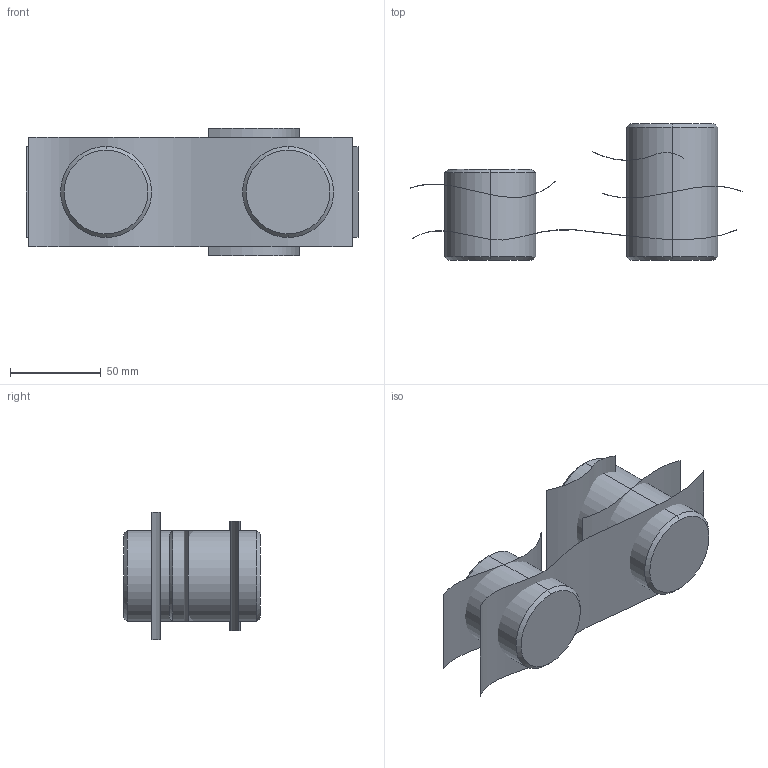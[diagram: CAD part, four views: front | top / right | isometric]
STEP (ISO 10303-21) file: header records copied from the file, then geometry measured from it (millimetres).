
FILE_DESCRIPTION (( 'STEP AP203' ), '1' );
FILE_NAME ('25.1.STEP', '2025-11-02T21:29:11', ( '' ), ( '' ), 'SwSTEP 2.0', 'SolidWorks 2025', '' );
FILE_SCHEMA (( 'CONFIG_CONTROL_DESIGN' ));
Length unit declared in the file: millimetre
Products named in the file (1): 25.1
Bounding box: 182.42 x 75 x 70 mm (x, y, z)
Surface area: 49288.7 mm2 (no closed solid volume)
Topology: 0 solids, 6 shells, 20 faces, 44 edges, 32 vertices
Faces by surface type: cone 8, cylinder 4, plane 4, bspline 4
Entity records: 658 total; most frequent: CARTESIAN_POINT 161, DIRECTION 86, ORIENTED_EDGE 72, EDGE_CURVE 44, AXIS2_PLACEMENT_3D 33, VERTEX_POINT 32, LINE 20, EDGE_LOOP 20
